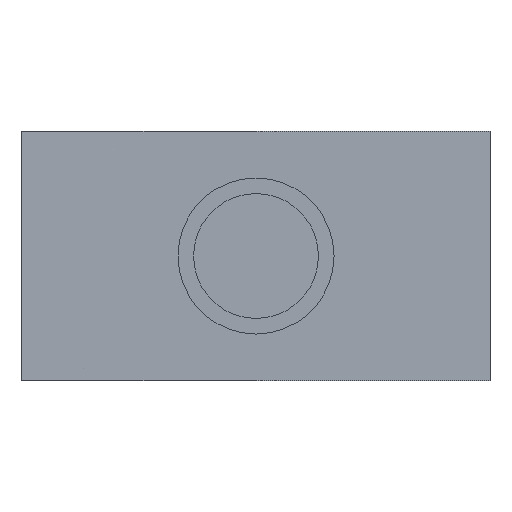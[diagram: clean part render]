
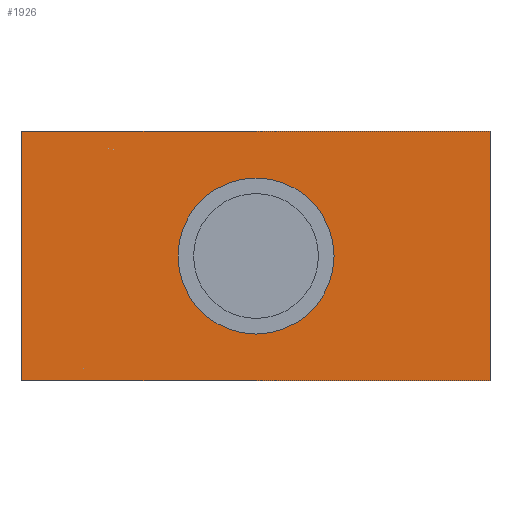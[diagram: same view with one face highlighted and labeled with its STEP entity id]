
A CAD part, front view. The second image highlights one B-rep face of the part: STEP entity #1926.
In plain terms, the highlighted planar face has unit normal (0, -1, 0) as drawn and (0, 0, -1) by its records, which use the part's own axes.
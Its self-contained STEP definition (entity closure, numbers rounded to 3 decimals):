
#214=FACE_BOUND('',#452,.T.);
#248=PLANE('',#2140);
#325=FACE_OUTER_BOUND('',#451,.T.);
#451=EDGE_LOOP('',(#1552,#1553,#1554,#1555));
#452=EDGE_LOOP('',(#1556));
#533=LINE('',#2886,#651);
#572=LINE('',#3002,#690);
#588=LINE('',#3047,#706);
#604=LINE('',#3080,#722);
#651=VECTOR('',#2342,1.);
#690=VECTOR('',#2453,30.);
#706=VECTOR('',#2497,16.);
#722=VECTOR('',#2535,30.);
#764=CIRCLE('',#2052,5.);
#862=VERTEX_POINT('',#2831);
#881=VERTEX_POINT('',#2884);
#882=VERTEX_POINT('',#2885);
#923=VERTEX_POINT('',#3000);
#938=VERTEX_POINT('',#3045);
#1038=EDGE_CURVE('',#862,#862,#764,.T.);
#1063=EDGE_CURVE('',#881,#882,#533,.T.);
#1119=EDGE_CURVE('',#882,#923,#572,.T.);
#1141=EDGE_CURVE('',#938,#923,#588,.T.);
#1158=EDGE_CURVE('',#938,#881,#604,.T.);
#1552=ORIENTED_EDGE('',*,*,#1063,.T.);
#1553=ORIENTED_EDGE('',*,*,#1119,.T.);
#1554=ORIENTED_EDGE('',*,*,#1141,.F.);
#1555=ORIENTED_EDGE('',*,*,#1158,.T.);
#1556=ORIENTED_EDGE('',*,*,#1038,.T.);
#1926=ADVANCED_FACE('',(#325,#214),#248,.T.);
#2052=AXIS2_PLACEMENT_3D('',#2833,#2282,#2283);
#2140=AXIS2_PLACEMENT_3D('',#3081,#2536,#2537);
#2282=DIRECTION('center_axis',(0.,0.,1.));
#2283=DIRECTION('ref_axis',(1.,0.,0.));
#2342=DIRECTION('',(0.,-1.,0.));
#2453=DIRECTION('',(-1.,0.,0.));
#2497=DIRECTION('',(0.,-1.,0.));
#2535=DIRECTION('',(1.,0.,0.));
#2536=DIRECTION('center_axis',(0.,0.,-1.));
#2537=DIRECTION('ref_axis',(-1.,0.,0.));
#2831=CARTESIAN_POINT('',(-5.,-8.,-40.));
#2833=CARTESIAN_POINT('Origin',(0.,-8.,-40.));
#2884=CARTESIAN_POINT('',(15.,0.,-40.));
#2885=CARTESIAN_POINT('',(15.,-16.,-40.));
#2886=CARTESIAN_POINT('',(15.,0.,-40.));
#3000=CARTESIAN_POINT('',(-15.,-16.,-40.));
#3002=CARTESIAN_POINT('',(15.,-16.,-40.));
#3045=CARTESIAN_POINT('',(-15.,0.,-40.));
#3047=CARTESIAN_POINT('',(-15.,0.,-40.));
#3080=CARTESIAN_POINT('',(-15.,0.,-40.));
#3081=CARTESIAN_POINT('Origin',(15.,-1.,-40.));
